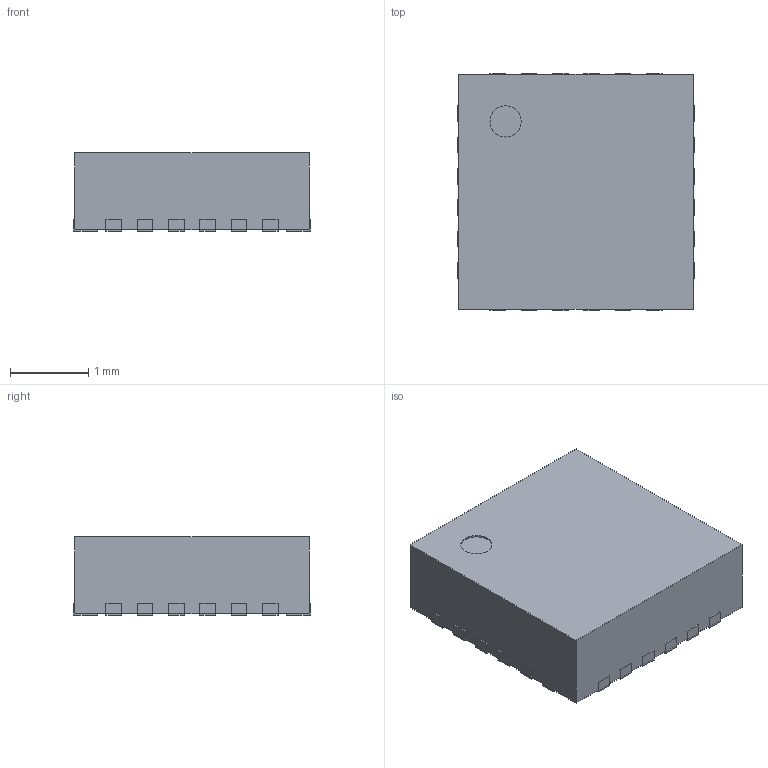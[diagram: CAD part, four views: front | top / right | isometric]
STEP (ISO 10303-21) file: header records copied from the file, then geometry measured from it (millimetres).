
FILE_DESCRIPTION(('FreeCAD Model'),'2;1');
FILE_NAME('Open CASCADE Shape Model','2025-02-13T20:39:03',( 'Krisjanis Rijnieks'),(''),'Open CASCADE STEP processor 7.7', 'FreeCAD','Unknown');
FILE_SCHEMA(('AUTOMOTIVE_DESIGN { 1 0 10303 214 1 1 1 1 }'));
Length unit declared in the file: millimetre
Products named in the file (26): ICM-20948; Body; Body001; Body006; Body005; Body003; Body002; Body004; Body007; Body008; Body009; Body010; Body011; Body012; Body013; Body014; Body015; Body016; Body017; Body018; Body019; Body020; Body021; Body022; Body023; Body024
Assembly tree (25 placements, depth 2):
  ICM-20948
    Body
    Body001
    Body006
    Body005
    Body003
    Body002
    Body004
    Body007
    Body008
    Body009
    Body010
    Body011
    Body012
    Body013
    Body014
    Body015
    Body016
    Body017
    Body018
    Body019
    Body020
    Body021
    Body022
    Body023
    Body024
Bounding box: 3.02 x 3.02 x 1 mm (x, y, z)
Volume: 9 mm3; surface area: 36.3 mm2
Topology: 25 solids, 25 shells, 152 faces, 303 edges, 202 vertices
Faces by surface type: plane 151, cylinder 1
Full cylindrical faces by diameter (mm): 0.4 x1
Entity records: 4514 total; most frequent: CARTESIAN_POINT 683, DIRECTION 661, ORIENTED_EDGE 606, EDGE_CURVE 303, LINE 301, VECTOR 301, VERTEX_POINT 202, AXIS2_PLACEMENT_3D 180
